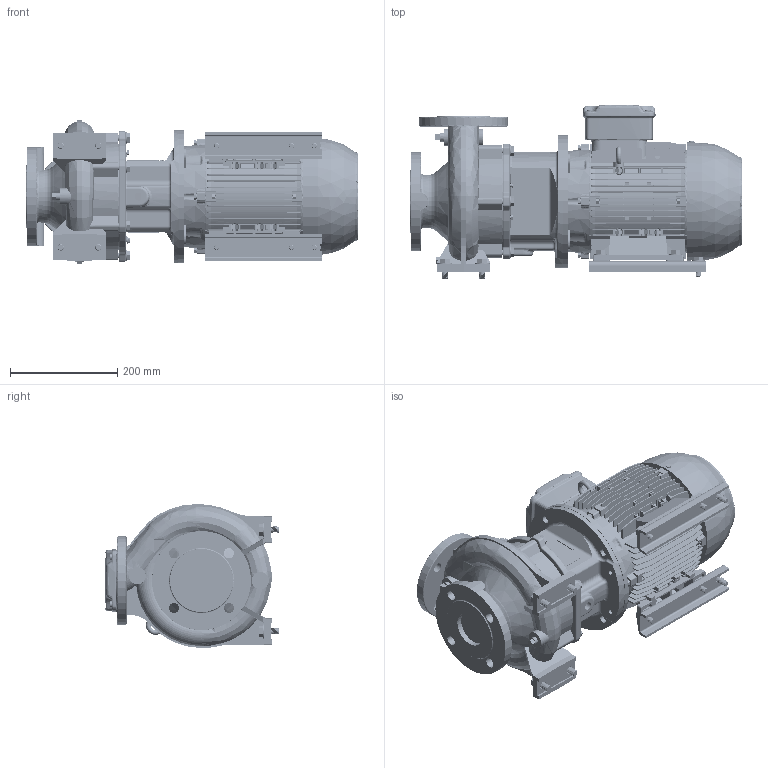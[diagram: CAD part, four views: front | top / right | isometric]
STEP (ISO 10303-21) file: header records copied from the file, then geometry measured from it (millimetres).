
FILE_DESCRIPTION (( 'STEP AP214' ), '1' );
FILE_NAME ('GSD2 50-125_4.0_(112M)_W21.STEP', '2026-07-02T06:44:20', ( '' ), ( '' ), 'SwSTEP 2.0', 'SolidWorks 2024', '' );
FILE_SCHEMA (( 'AUTOMOTIVE_DESIGN' ));
Length unit declared in the file: millimetre
Products named in the file (8): GSD2  50-125_4.0_(112M)_W21; Parametric bolt_SFT-A253B; Parametric Flat Washer_M12; 112M ALIE3_W21T_B35; Parametric bolt_SFT-A299B; 50-125-112M; Parametric Flat Washer_M10; 140 x 20 - 271472024
Assembly tree (24 placements, depth 2):
  GSD2  50-125_4.0_(112M)_W21
    50-125-112M
    112M ALIE3_W21T_B35
    140 x 20 - 271472024  x2
    Parametric bolt_SFT-A299B  x4
    Parametric bolt_SFT-A253B  x6
    Parametric Flat Washer_M10  x6
    Parametric Flat Washer_M12  x4
Bounding box: 620.1 x 324.5 x 268.83 mm (x, y, z)
Volume: 18684560.1 mm3; surface area: 1449433.6 mm2
Topology: 41 solids, 43 shells, 5130 faces, 13777 edges, 9009 vertices
Faces by surface type: plane 2657, cylinder 1219, bspline 510, torus 368, cone 365, sphere 11
Entity records: 202646 total; most frequent: CARTESIAN_POINT 91423, ORIENTED_EDGE 25030, DIRECTION 20136, EDGE_CURVE 12515, VERTEX_POINT 8196, LINE 7020, VECTOR 7020, AXIS2_PLACEMENT_3D 6558
